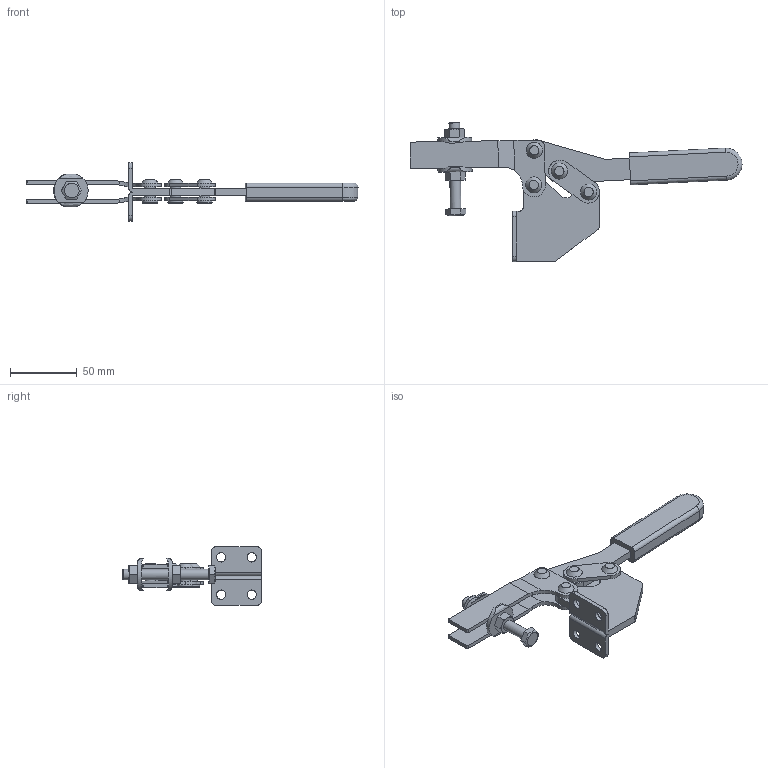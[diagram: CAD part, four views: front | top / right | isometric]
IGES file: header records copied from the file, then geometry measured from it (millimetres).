
Global section: file name: No.38CL(38CL-2S); native system: Autodesk Inventor 2020; preprocessor: unknown; author: y-takahashi; date: 20211201.101047; units: millimetre
Bounding box: 249.23 x 104.7 x 44 mm (x, y, z)
Volume: 83847.1 mm3; surface area: 50250.6 mm2
Topology: 16 solids, 16 shells, 241 faces, 596 edges, 401 vertices
Faces by surface type: bspline 241
